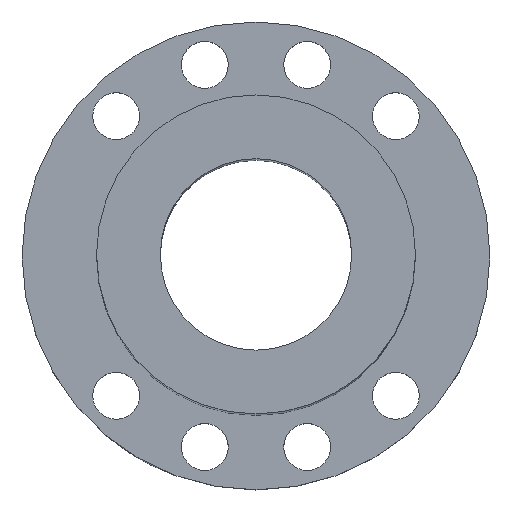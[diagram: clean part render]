
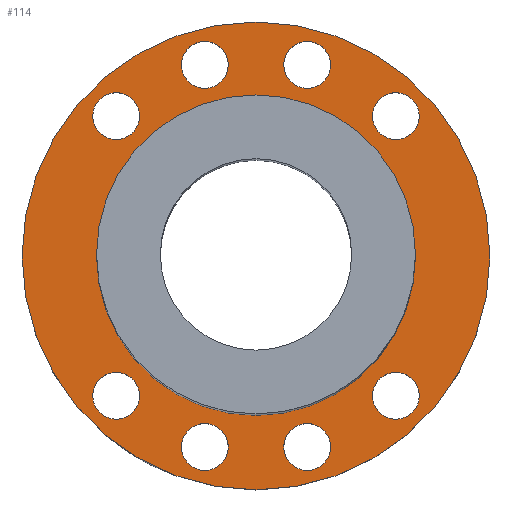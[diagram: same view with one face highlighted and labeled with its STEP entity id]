
A CAD part, top view. The second image highlights one B-rep face of the part: STEP entity #114.
In plain terms, the highlighted planar face has unit normal (0, 0, 1).
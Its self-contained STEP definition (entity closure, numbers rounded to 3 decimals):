
#99=PLANE('',#401);
#114=ADVANCED_FACE('',(#169,#170,#171,#172,#173,#174,#175,#176,#177,#178),
#99,.T.);
#169=FACE_BOUND('',#221,.T.);
#170=FACE_BOUND('',#222,.T.);
#171=FACE_BOUND('',#223,.T.);
#172=FACE_BOUND('',#224,.T.);
#173=FACE_BOUND('',#225,.T.);
#174=FACE_BOUND('',#226,.T.);
#175=FACE_BOUND('',#227,.T.);
#176=FACE_BOUND('',#228,.T.);
#177=FACE_BOUND('',#229,.T.);
#178=FACE_BOUND('',#230,.T.);
#221=EDGE_LOOP('',(#273));
#222=EDGE_LOOP('',(#274));
#223=EDGE_LOOP('',(#275));
#224=EDGE_LOOP('',(#276));
#225=EDGE_LOOP('',(#277));
#226=EDGE_LOOP('',(#278));
#227=EDGE_LOOP('',(#279));
#228=EDGE_LOOP('',(#280));
#229=EDGE_LOOP('',(#281));
#230=EDGE_LOOP('',(#282));
#273=ORIENTED_EDGE('',*,*,#316,.T.);
#274=ORIENTED_EDGE('',*,*,#337,.F.);
#275=ORIENTED_EDGE('',*,*,#336,.T.);
#276=ORIENTED_EDGE('',*,*,#335,.T.);
#277=ORIENTED_EDGE('',*,*,#334,.F.);
#278=ORIENTED_EDGE('',*,*,#333,.F.);
#279=ORIENTED_EDGE('',*,*,#318,.T.);
#280=ORIENTED_EDGE('',*,*,#332,.F.);
#281=ORIENTED_EDGE('',*,*,#331,.T.);
#282=ORIENTED_EDGE('',*,*,#338,.T.);
#290=VERTEX_POINT('',#495);
#292=VERTEX_POINT('',#557);
#305=VERTEX_POINT('',#644);
#306=VERTEX_POINT('',#647);
#307=VERTEX_POINT('',#650);
#308=VERTEX_POINT('',#653);
#309=VERTEX_POINT('',#656);
#310=VERTEX_POINT('',#659);
#311=VERTEX_POINT('',#662);
#312=VERTEX_POINT('',#665);
#316=EDGE_CURVE('',#290,#290,#342,.T.);
#318=EDGE_CURVE('',#292,#292,#343,.T.);
#331=EDGE_CURVE('',#305,#305,#355,.T.);
#332=EDGE_CURVE('',#306,#306,#356,.T.);
#333=EDGE_CURVE('',#307,#307,#357,.T.);
#334=EDGE_CURVE('',#308,#308,#358,.T.);
#335=EDGE_CURVE('',#309,#309,#359,.T.);
#336=EDGE_CURVE('',#310,#310,#360,.T.);
#337=EDGE_CURVE('',#311,#311,#361,.T.);
#338=EDGE_CURVE('',#312,#312,#362,.T.);
#342=CIRCLE('',#367,55.);
#343=CIRCLE('',#369,37.5);
#355=CIRCLE('',#385,5.5);
#356=CIRCLE('',#387,5.5);
#357=CIRCLE('',#389,5.5);
#358=CIRCLE('',#391,5.5);
#359=CIRCLE('',#393,5.5);
#360=CIRCLE('',#395,5.5);
#361=CIRCLE('',#397,5.5);
#362=CIRCLE('',#399,5.5);
#367=AXIS2_PLACEMENT_3D('',#494,#411,#412);
#369=AXIS2_PLACEMENT_3D('',#556,#415,#416);
#385=AXIS2_PLACEMENT_3D('',#643,#447,#448);
#387=AXIS2_PLACEMENT_3D('',#646,#451,#452);
#389=AXIS2_PLACEMENT_3D('',#649,#455,#456);
#391=AXIS2_PLACEMENT_3D('',#652,#459,#460);
#393=AXIS2_PLACEMENT_3D('',#655,#463,#464);
#395=AXIS2_PLACEMENT_3D('',#658,#467,#468);
#397=AXIS2_PLACEMENT_3D('',#661,#471,#472);
#399=AXIS2_PLACEMENT_3D('',#664,#475,#476);
#401=AXIS2_PLACEMENT_3D('',#667,#479,#480);
#411=DIRECTION('',(0.,0.,1.));
#412=DIRECTION('',(1.,0.,0.));
#415=DIRECTION('',(0.,0.,-1.));
#416=DIRECTION('',(1.,0.,0.));
#447=DIRECTION('',(0.,0.,-1.));
#448=DIRECTION('',(-1.,0.,0.));
#451=DIRECTION('',(0.,0.,1.));
#452=DIRECTION('',(-1.,0.,0.));
#455=DIRECTION('',(0.,0.,1.));
#456=DIRECTION('',(1.,0.,0.));
#459=DIRECTION('',(0.,0.,1.));
#460=DIRECTION('',(-1.,0.,0.));
#463=DIRECTION('',(0.,0.,-1.));
#464=DIRECTION('',(-1.,0.,0.));
#467=DIRECTION('',(0.,0.,-1.));
#468=DIRECTION('',(1.,0.,0.));
#471=DIRECTION('',(0.,0.,1.));
#472=DIRECTION('',(1.,0.,0.));
#475=DIRECTION('',(0.,0.,-1.));
#476=DIRECTION('',(1.,0.,0.));
#479=DIRECTION('',(0.,0.,1.));
#480=DIRECTION('',(1.,0.,0.));
#494=CARTESIAN_POINT('',(0.,0.,16.));
#495=CARTESIAN_POINT('',(55.,0.,16.));
#556=CARTESIAN_POINT('',(0.,0.,16.));
#557=CARTESIAN_POINT('',(37.5,0.,16.));
#643=CARTESIAN_POINT('',(12.035,44.916,16.));
#644=CARTESIAN_POINT('',(6.535,44.916,16.));
#646=CARTESIAN_POINT('',(32.88,-32.88,16.));
#647=CARTESIAN_POINT('',(27.38,-32.88,16.));
#649=CARTESIAN_POINT('',(-32.88,32.88,16.));
#650=CARTESIAN_POINT('',(-27.38,32.88,16.));
#652=CARTESIAN_POINT('',(12.035,-44.916,16.));
#653=CARTESIAN_POINT('',(6.535,-44.916,16.));
#655=CARTESIAN_POINT('',(32.88,32.88,16.));
#656=CARTESIAN_POINT('',(27.38,32.88,16.));
#658=CARTESIAN_POINT('',(-12.035,-44.916,16.));
#659=CARTESIAN_POINT('',(-6.535,-44.916,16.));
#661=CARTESIAN_POINT('',(-12.035,44.916,16.));
#662=CARTESIAN_POINT('',(-6.535,44.916,16.));
#664=CARTESIAN_POINT('',(-32.88,-32.88,16.));
#665=CARTESIAN_POINT('',(-27.38,-32.88,16.));
#667=CARTESIAN_POINT('',(-6.018,22.458,16.));
